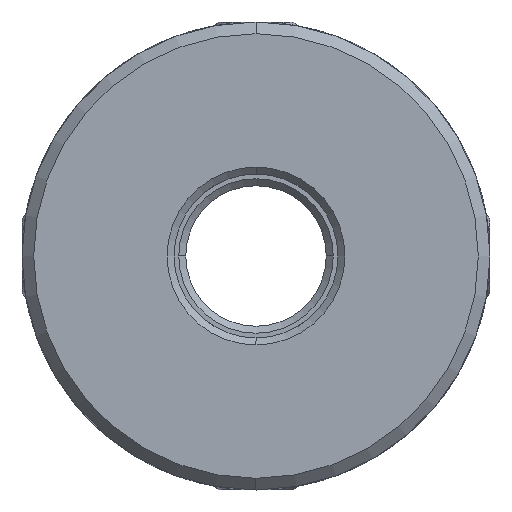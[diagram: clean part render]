
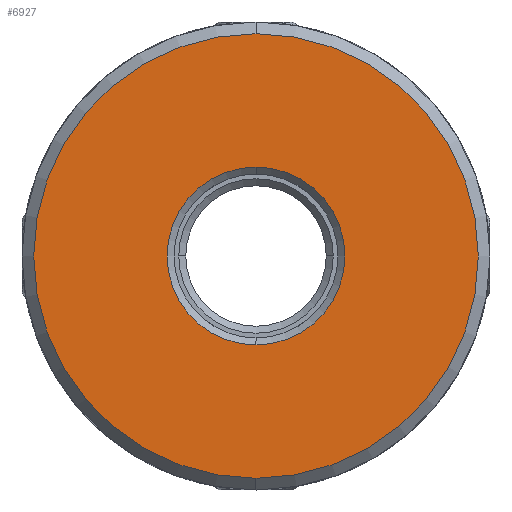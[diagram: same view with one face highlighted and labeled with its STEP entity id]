
A CAD part, front view. The second image highlights one B-rep face of the part: STEP entity #6927.
In plain terms, the highlighted planar face has unit normal (0, -1, 0).
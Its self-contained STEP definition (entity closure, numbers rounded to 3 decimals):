
#40 = VERTEX_POINT ( 'NONE', #3597 ) ;
#498 = DIRECTION ( 'NONE',  ( 0., 0., -1. ) ) ;
#821 = EDGE_CURVE ( 'NONE', #7832, #5831, #4290, .T. ) ;
#1591 = ORIENTED_EDGE ( 'NONE', *, *, #2953, .T. ) ;
#1641 = CARTESIAN_POINT ( 'NONE',  ( 0., -23., 0. ) ) ;
#2186 = CIRCLE ( 'NONE', #4383, 3.8 ) ;
#2230 = EDGE_LOOP ( 'NONE', ( #4229, #1591 ) ) ;
#2363 = CARTESIAN_POINT ( 'NONE',  ( 50., -23., -15.365 ) ) ;
#2468 = ORIENTED_EDGE ( 'NONE', *, *, #821, .T. ) ;
#2565 = DIRECTION ( 'NONE',  ( 0., 0., -1. ) ) ;
#2953 = EDGE_CURVE ( 'NONE', #40, #7222, #6954, .T. ) ;
#3554 = EDGE_CURVE ( 'NONE', #7222, #40, #2186, .T. ) ;
#3560 = CARTESIAN_POINT ( 'NONE',  ( 0., -23., 0. ) ) ;
#3597 = CARTESIAN_POINT ( 'NONE',  ( 0., -23., -3.8 ) ) ;
#4015 = AXIS2_PLACEMENT_3D ( 'NONE', #3560, #9562, #4948 ) ;
#4055 = AXIS2_PLACEMENT_3D ( 'NONE', #1641, #9039, #8338 ) ;
#4229 = ORIENTED_EDGE ( 'NONE', *, *, #3554, .T. ) ;
#4290 = CIRCLE ( 'NONE', #4015, 9.5 ) ;
#4383 = AXIS2_PLACEMENT_3D ( 'NONE', #7963, #8760, #498 ) ;
#4806 = DIRECTION ( 'NONE',  ( 0., 1., 0. ) ) ;
#4816 = EDGE_LOOP ( 'NONE', ( #2468, #8132 ) ) ;
#4885 = CARTESIAN_POINT ( 'NONE',  ( 0., -23., 9.5 ) ) ;
#4948 = DIRECTION ( 'NONE',  ( 0., 0., -1. ) ) ;
#5456 = AXIS2_PLACEMENT_3D ( 'NONE', #9314, #4806, #2565 ) ;
#5831 = VERTEX_POINT ( 'NONE', #4885 ) ;
#6169 = DIRECTION ( 'NONE',  ( 0., 1., 0. ) ) ;
#6612 = AXIS2_PLACEMENT_3D ( 'NONE', #2363, #6169, #8384 ) ;
#6863 = PLANE ( 'NONE',  #6612 ) ;
#6927 = ADVANCED_FACE ( 'NONE', ( #8918, #7865 ), #6863, .F. ) ;
#6954 = CIRCLE ( 'NONE', #5456, 3.8 ) ;
#7222 = VERTEX_POINT ( 'NONE', #8014 ) ;
#7457 = EDGE_CURVE ( 'NONE', #5831, #7832, #9639, .T. ) ;
#7832 = VERTEX_POINT ( 'NONE', #9529 ) ;
#7865 = FACE_OUTER_BOUND ( 'NONE', #4816, .T. ) ;
#7963 = CARTESIAN_POINT ( 'NONE',  ( 0., -23., 0. ) ) ;
#8014 = CARTESIAN_POINT ( 'NONE',  ( 0., -23., 3.8 ) ) ;
#8132 = ORIENTED_EDGE ( 'NONE', *, *, #7457, .T. ) ;
#8338 = DIRECTION ( 'NONE',  ( 0., 0., -1. ) ) ;
#8384 = DIRECTION ( 'NONE',  ( 0., 0., -1. ) ) ;
#8760 = DIRECTION ( 'NONE',  ( 0., 1., 0. ) ) ;
#8918 = FACE_BOUND ( 'NONE', #2230, .T. ) ;
#9039 = DIRECTION ( 'NONE',  ( 0., -1., 0. ) ) ;
#9314 = CARTESIAN_POINT ( 'NONE',  ( 0., -23., 0. ) ) ;
#9529 = CARTESIAN_POINT ( 'NONE',  ( 0., -23., -9.5 ) ) ;
#9562 = DIRECTION ( 'NONE',  ( 0., -1., 0. ) ) ;
#9639 = CIRCLE ( 'NONE', #4055, 9.5 ) ;
